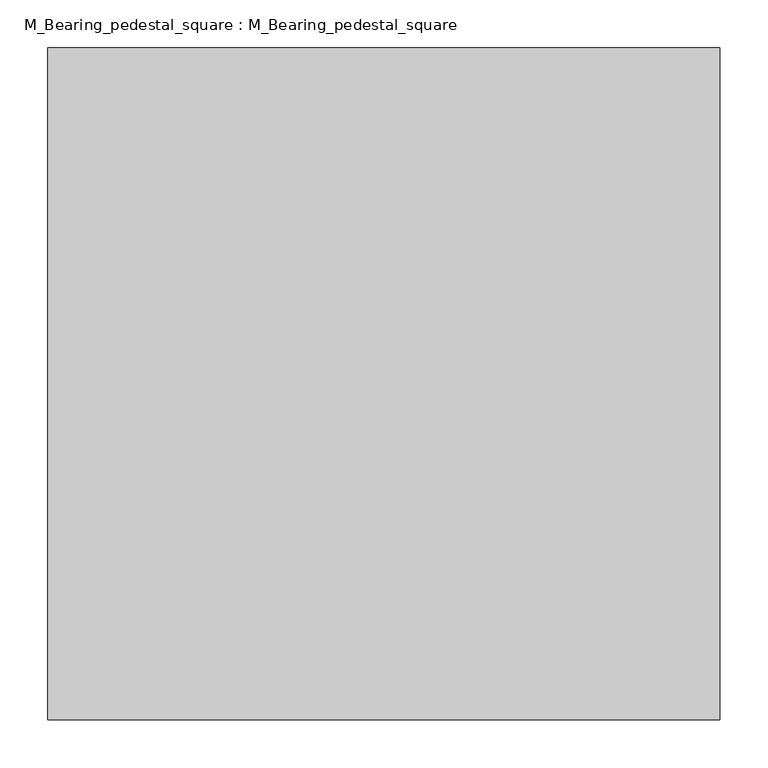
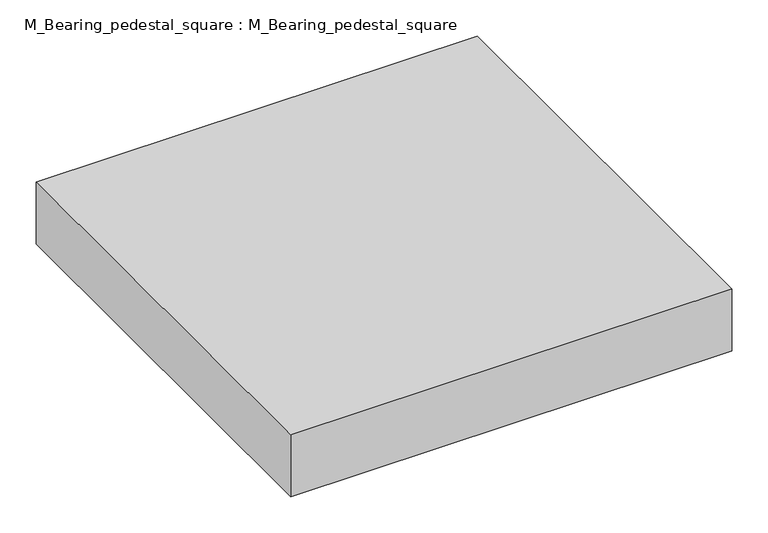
"""IFC4 building model written with IfcOpenShell, lengths in millimetres: proxy geometry, M_Bearing_pedestal_square : M_Bearing_pedestal_square."""

from ifc_helpers import new_model, si_unit, frame, origin, place, context, project, spatial, polyline, outline, extrude, source, transform, mapped, element, save


def m_bearing_pedestal_square_m_bearing_pedestal_square_53fed63e(model_context):
    return source(origin(), model_context, "Body", "SweptSolid", [
        extrude(outline(polyline([(-350.0, -350.0), (-350.0, 350.0), (350.0, 350.0), (350.0, -350.0), (-350.0, -350.0)])), frame((0.0, 0.0, -103.9419), z_axis=(0.0, 0.0, 1.0), x_axis=(1.0, 0.0, 0.0)), (0.0, 0.0, 1.0), 103.9419),
    ])


if __name__ == "__main__":
    model = new_model("IFC4")
    model_context = context("Model", 3, world=origin())
    ifc_project = project(units=[si_unit("LENGTHUNIT", "METRE", prefix="MILLI")], contexts=[model_context])
    site = spatial("IfcSite", under=ifc_project)
    building = spatial("IfcBuilding", under=site)
    placement = place(None, origin())
    m_bearing_pedestal_square_m_bearing_pedestal_square_shape = m_bearing_pedestal_square_m_bearing_pedestal_square_53fed63e(model_context)
    element("IfcBuildingElementProxy", 1, Name="M_Bearing_pedestal_square : M_Bearing_pedestal_square", ObjectType="M_Bearing_pedestal_square : M_Bearing_pedestal_square", at=placement, inside=building, context=model_context, shape_type="MappedRepresentation", body=[
        mapped(m_bearing_pedestal_square_m_bearing_pedestal_square_shape, transform((0.0, 0.0, 0.0), x_axis=(1.0, 0.0, 0.0), y_axis=(0.0, 1.0, 0.0), z_axis=(0.0, 0.0, 1.0))),
    ])
    save(model, "model.ifc")
